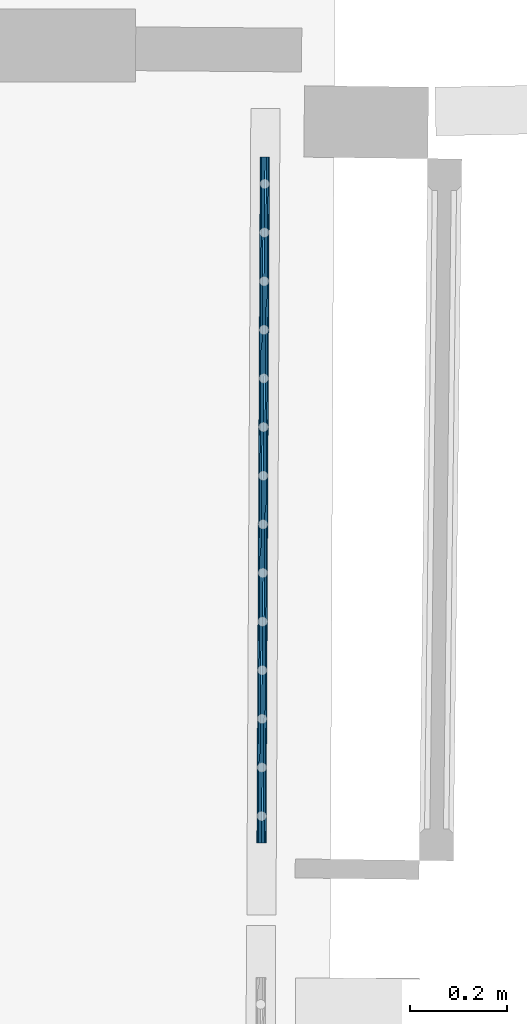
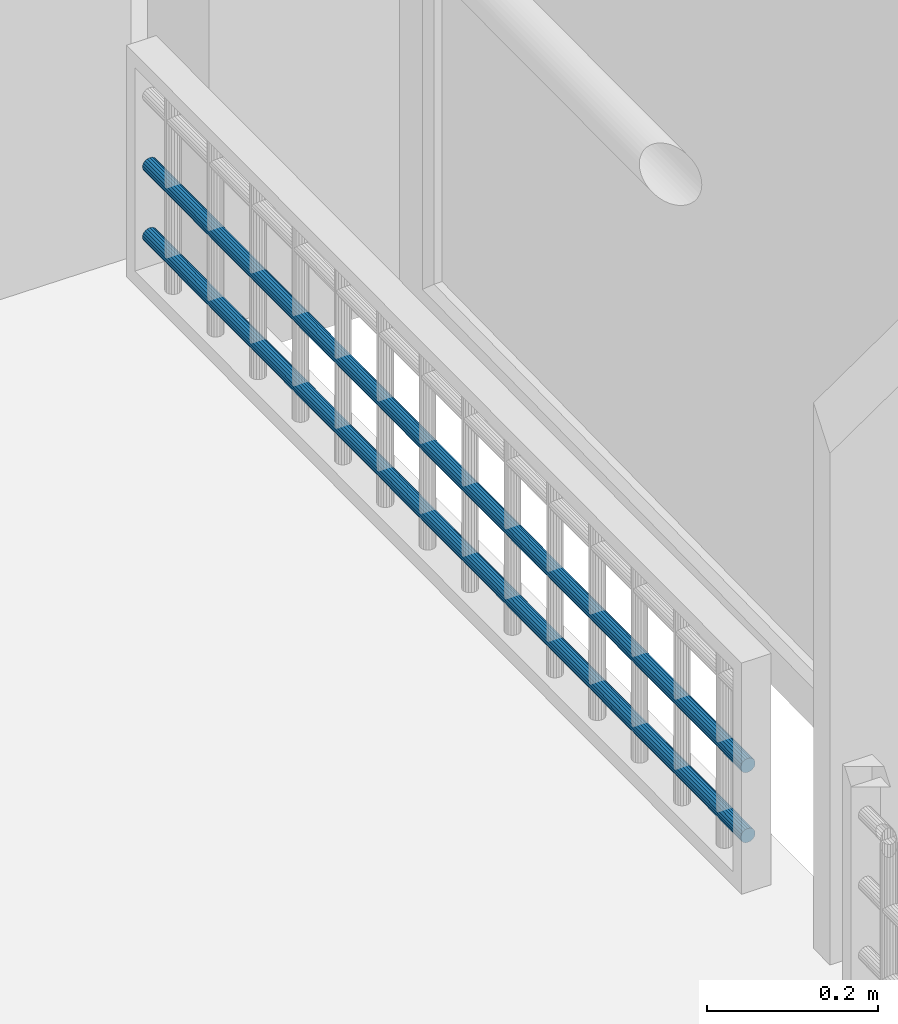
# One storey, part 21 of 66: 2 members, 1 element without a shape of its own.
"""IFC2X3 building model written with IfcOpenShell, lengths in centimetres."""

from ifc_helpers import new_model, entity, si_unit, converted_unit, direction, frame, origin, origin_with_axes, place, context, subcontext, project, spatial, faceted_brep, material, type_object, element, aggregate, save


model = new_model("IFC2X3")

# Units and contexts
model_context = context("Model", 3, precision=0.0001, world=origin(), true_north=direction((0.225632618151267, 0.974212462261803, 0.0)))
body_context = subcontext(model_context, "Body", "Model", "MODEL_VIEW")
ifc_project = project(units=[si_unit("LENGTHUNIT", "METRE", prefix="CENTI"), si_unit("AREAUNIT", "SQUARE_METRE", prefix="CENTI"), si_unit("VOLUMEUNIT", "CUBIC_METRE", prefix="CENTI"), converted_unit("PLANEANGLEUNIT", "DEGREE", entity("IfcRatioMeasure", 0.0174532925), si_unit("PLANEANGLEUNIT", "RADIAN"), dimensions=[0, 0, 0, 0, 0, 0, 0])], contexts=[model_context])

# Site, building, storey
site_placement = place(None, origin_with_axes())
site = spatial("IfcSite", under=ifc_project, at=site_placement, Name="Default Site", CompositionType="ELEMENT")
building_placement = place(site_placement, origin_with_axes())
building = spatial("IfcBuilding", under=site, at=building_placement, Name="Default Building", CompositionType="ELEMENT")
storey_placement = place(building_placement, frame((0.0, 0.0, 477.795358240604), z_axis=(0.0, 0.0, 1.0), x_axis=(1.0, 0.0, 0.0)))
storey = spatial("IfcBuildingStorey", under=building, at=storey_placement, Name="Niveau 1", CompositionType="ELEMENT", Elevation=477.795358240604)

# Assembly, members
building_element_proxy_type = type_object("IfcBuildingElementProxyType", Name="Type Object", PredefinedType="NOTDEFINED")
assembly_placement = place(storey_placement, frame((1065.11691205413, 138.297750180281, 9.99999999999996), z_axis=(0.0, 0.0, 1.0), x_axis=(-0.00486371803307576, -0.999988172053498, 0.0)))
assembly = element("IfcElementAssembly", 1, at=assembly_placement, inside=storey, type_object=building_element_proxy_type, Name="Panneau 1702029", ObjectType="Precast panel", PredefinedType="USERDEFINED")
ifc_material = material(Name="Aluminium satiné")
member_1_placement = place(assembly_placement, frame((142.999994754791, 0.342020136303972, 15.5603080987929), z_axis=(1.0, -4.41617228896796e-14, -2.54969656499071e-14), x_axis=(-5.09930639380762e-14, -0.866026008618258, -0.499998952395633)))
member_1 = element("IfcMember", 2, at=member_1_placement, material=ifc_material, Name="4294967059", context=body_context, shape_type="Brep", body=[
    faceted_brep([(-3.06699110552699e-13, 1.49880108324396e-13, 0.0), (-0.347296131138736, 1.58206781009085e-13, -1.77099950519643e-14), (-0.673647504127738, -0.118782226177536, -3.43519860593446e-14), (-0.939691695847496, -0.34202033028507, -4.79187221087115e-14), (-1.11333977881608, -0.642788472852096, -5.67738509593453e-14), (-1.17364672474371, -0.984808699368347, -5.98492875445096e-14), (-1.11333863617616, -1.32682824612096, -5.67740893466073e-14), (-0.939690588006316, -1.62759638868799, -4.79192231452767e-14), (-0.673645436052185, -1.85083308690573, -3.43526317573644e-14), (-0.347293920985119, -1.96961580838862, -1.7710736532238e-14), (2.95520980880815e-06, -1.96961451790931, -7.03486354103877e-19), (0.326354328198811, -1.85083229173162, 1.66412875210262e-14), (0.592398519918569, -1.62759418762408, 3.02080235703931e-14), (0.766046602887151, -1.32682604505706, 3.90631524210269e-14), (0.826353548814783, -0.984805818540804, 4.21385890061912e-14), (0.766045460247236, -0.64278627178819, 3.90633908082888e-14), (0.59239666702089, -0.342019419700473, 3.02084866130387e-14), (0.32635226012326, -0.118781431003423, 1.6641933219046e-14), (0.326352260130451, -0.118781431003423, -140.999994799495), (0.592396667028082, -0.342019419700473, -140.999994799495), (0.766045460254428, -0.64278627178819, -140.999994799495), (0.826353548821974, -0.984805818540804, -140.999994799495), (0.766046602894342, -1.32682604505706, -140.999994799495), (0.59239851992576, -1.62759418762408, -140.999994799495), (0.326354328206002, -1.85083229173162, -140.999994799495), (2.95521700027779e-06, -1.96961451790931, -140.999994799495), (-0.347293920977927, -1.96961580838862, -140.999994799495), (-0.673645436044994, -1.85083308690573, -140.999994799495), (-0.939690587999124, -1.62759638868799, -140.999994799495), (-1.11333863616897, -1.32682824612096, -140.999994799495), (-1.17364672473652, -0.984808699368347, -140.999994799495), (-1.11333977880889, -0.642788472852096, -140.999994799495), (-0.939691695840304, -0.34202033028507, -140.999994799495), (-0.673647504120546, -0.118782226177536, -140.999994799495), (-0.347296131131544, 1.58206781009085e-13, -140.999994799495), (6.88477053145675e-12, 1.49880108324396e-13, -140.999994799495), (0.32635226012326, -0.118781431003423, 2.22044604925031e-14), (0.592397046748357, -0.342018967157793, 4.4408940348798e-14), (0.592397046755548, -0.342018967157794, -140.999994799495), (0.326352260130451, -0.118781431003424, -140.999994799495), (0.59239666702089, -0.342019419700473, 4.44089209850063e-14), (0.766045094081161, -0.642786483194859, 4.44089023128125e-14), (0.766045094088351, -0.64278648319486, -140.999994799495), (0.592396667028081, -0.342019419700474, -140.999994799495), (0.766045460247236, -0.64278627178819, 4.44089209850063e-14), (0.826353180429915, -0.984805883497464, 6.66133626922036e-14), (0.826353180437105, -0.984805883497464, -140.999994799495), (0.766045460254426, -0.64278627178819, -140.999994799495), (0.826353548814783, -0.984805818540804, 6.66133814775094e-14), (0.766046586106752, -1.32682604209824, 4.4408920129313e-14), (0.766046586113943, -1.32682604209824, -140.999994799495), (0.826353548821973, -0.984805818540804, -140.999994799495), (0.766046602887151, -1.32682604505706, 4.44089209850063e-14), (0.592398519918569, -1.62759418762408, 4.44089209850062e-14), (0.592398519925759, -1.62759418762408, -140.999994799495), (0.766046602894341, -1.32682604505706, -140.999994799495), (0.592398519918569, -1.62759418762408, 4.44089209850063e-14), (0.326354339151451, -1.85083230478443, 2.22044610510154e-14), (0.326354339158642, -1.85083230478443, -140.999994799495), (0.326354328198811, -1.85083229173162, 2.22044604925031e-14), (3.08314897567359e-06, -1.96961486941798, 6.52400854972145e-21), (3.08315616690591e-06, -1.96961486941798, -140.999994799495), (2.95520980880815e-06, -1.96961451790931, 0.0), (-0.347293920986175, -1.96961494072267, 1.37204958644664e-25), (-0.347293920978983, -1.96961494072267, -140.999994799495), (-0.347293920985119, -1.96961580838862, 0.0), (-0.673645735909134, -1.85083391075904, -2.22044757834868e-14), (-0.673645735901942, -1.85083391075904, -140.999994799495), (-0.673645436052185, -1.85083308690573, -2.22044604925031e-14), (-0.939690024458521, -1.62759571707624, -4.44088922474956e-14), (-0.93969002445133, -1.62759571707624, -140.999994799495), (-0.939690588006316, -1.62759638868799, -4.44089209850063e-14), (-1.1133393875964, -1.32682867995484, -4.44089593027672e-14), (-1.11333938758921, -1.32682867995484, -140.999994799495), (-0.939690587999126, -1.62759638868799, -140.999994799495), (-1.11333863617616, -1.32682824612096, -4.44089209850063e-14), (-1.17364635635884, -0.984808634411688, -6.66133626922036e-14), (-1.17364635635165, -0.984808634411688, -140.999994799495), (-1.17364672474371, -0.984808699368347, -6.66133814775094e-14), (-1.11333976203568, -0.642788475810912, -4.4408920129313e-14), (-1.11333976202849, -0.642788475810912, -140.999994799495), (-1.17364672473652, -0.984808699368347, -140.999994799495), (-1.11333977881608, -0.642788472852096, -4.44089209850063e-14), (-0.939691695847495, -0.34202033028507, -4.44089209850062e-14), (-0.939691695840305, -0.34202033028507, -140.999994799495), (-1.11333977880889, -0.642788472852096, -140.999994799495), (-0.939691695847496, -0.34202033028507, -4.44089209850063e-14), (-0.673647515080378, -0.118782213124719, -2.22044610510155e-14), (-0.673647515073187, -0.118782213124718, -140.999994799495), (-0.939691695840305, -0.342020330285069, -140.999994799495), (-0.673647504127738, -0.118782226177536, -2.22044604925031e-14), (-0.347296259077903, 3.51508832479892e-07, -6.52400855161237e-21), (-0.347296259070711, 3.51508832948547e-07, -140.999994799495), (-0.673647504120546, -0.118782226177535, -140.999994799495), (-0.347296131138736, 1.58206781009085e-13, 0.0), (-8.21448214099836e-13, 4.22812609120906e-07, 6.68597932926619e-26), (6.37002142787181e-12, 4.22812609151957e-07, -140.999994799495), (-0.347296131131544, 1.58237832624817e-13, -140.999994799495), (0.326352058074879, -0.118781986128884, 2.22044501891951e-14), (0.32635205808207, -0.118781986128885, -140.999994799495), (6.88462091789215e-12, 1.49469046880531e-13, -140.999994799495)], [[[0, 1, 2, 3, 4, 5, 6, 7, 8, 9, 10, 11, 12, 13, 14, 15, 16, 17]], [[18, 19, 20, 21, 22, 23, 24, 25, 26, 27, 28, 29, 30, 31, 32, 33, 34, 35]], [[36, 37, 38, 39]], [[40, 41, 42, 43]], [[44, 45, 46, 47]], [[48, 49, 50, 51]], [[52, 53, 54, 55]], [[56, 57, 58, 23]], [[59, 60, 61, 24]], [[62, 63, 64, 25]], [[65, 66, 67, 26]], [[68, 69, 70, 27]], [[71, 72, 73, 74]], [[75, 76, 77, 29]], [[78, 79, 80, 81]], [[82, 83, 84, 85]], [[86, 87, 88, 89]], [[90, 91, 92, 93]], [[94, 95, 96, 97]], [[0, 98, 99, 100]]]),
])
member_2_placement = place(assembly_placement, frame((142.999994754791, 0.342020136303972, 5.56030720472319), z_axis=(1.0, -4.41625902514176e-14, -2.54969656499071e-14), x_axis=(-5.09930639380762e-14, -0.866025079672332, -0.500000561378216)))
member_2 = element("IfcMember", 3, at=member_2_placement, material=ifc_material, Name="4294967058", context=body_context, shape_type="Brep", body=[
    faceted_brep([(-1.61676227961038e-13, 8.74300631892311e-14, 2.22044604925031e-14), (-0.347296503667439, 9.36750677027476e-14, 4.49444644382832e-15), (-0.67364828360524, -0.118781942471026, -1.2147513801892e-14), (-0.939693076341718, -0.342019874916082, -2.57141836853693e-14), (-1.1133413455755, -0.642787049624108, -3.45691915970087e-14), (-1.17364892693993, -0.98480716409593, -3.76445122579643e-14), (-1.11334184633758, -1.32682746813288, -3.45692171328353e-14), (-0.939693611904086, -1.62759464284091, -2.57142109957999e-14), (-0.673649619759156, -1.85083312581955, -1.2147581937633e-14), (-0.347297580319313, -1.96961516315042, 4.49439154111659e-15), (-1.44918148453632e-06, -1.96961580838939, 2.22043865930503e-14), (0.326350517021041, -1.85083354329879, 3.88463563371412e-14), (0.592395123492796, -1.62759593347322, 5.2413016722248e-14), (0.766043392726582, -1.32682875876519, 6.12680246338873e-14), (0.826351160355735, -0.984808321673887, 6.43433547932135e-14), (0.766043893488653, -0.642788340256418, 6.1268050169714e-14), (0.592396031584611, -0.34202052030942, 5.24130630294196e-14), (0.326351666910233, -0.118782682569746, 3.88464149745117e-14), (0.326351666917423, -0.118782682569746, -140.999994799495), (0.592396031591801, -0.34202052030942, -140.999994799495), (0.766043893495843, -0.642788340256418, -140.999994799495), (0.826351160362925, -0.984808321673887, -140.999994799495), (0.766043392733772, -1.32682875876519, -140.999994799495), (0.592395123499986, -1.62759593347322, -140.999994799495), (0.326350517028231, -1.85083354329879, -140.999994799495), (-1.44917429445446e-06, -1.96961580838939, -140.999994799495), (-0.347297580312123, -1.96961516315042, -140.999994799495), (-0.673649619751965, -1.85083312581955, -140.999994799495), (-0.939693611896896, -1.62759464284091, -140.999994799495), (-1.11334184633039, -1.32682746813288, -140.999994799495), (-1.17364892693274, -0.98480716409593, -140.999994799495), (-1.11334134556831, -0.642787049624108, -140.999994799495), (-0.939693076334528, -0.342019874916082, -140.999994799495), (-0.67364828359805, -0.118781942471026, -140.999994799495), (-0.347296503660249, 9.36750677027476e-14, -140.999994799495), (7.02840563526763e-12, 8.74300631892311e-14, -140.999994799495), (0.326351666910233, -0.118782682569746, 4.44089209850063e-14), (0.592395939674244, -0.342020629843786, 6.66133767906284e-14), (0.592395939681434, -0.342020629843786, -140.999994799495), (0.592396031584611, -0.34202052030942, 6.66133814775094e-14), (0.766044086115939, -0.642788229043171, 4.44089308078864e-14), (0.766044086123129, -0.642788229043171, -140.999994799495), (0.766043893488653, -0.642788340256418, 4.44089209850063e-14), (0.826351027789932, -0.984808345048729, 6.6613374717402e-14), (0.826351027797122, -0.984808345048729, -140.999994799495), (0.826351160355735, -0.984808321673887, 6.66133814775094e-14), (0.766043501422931, -1.32682877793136, 6.66133870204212e-14), (0.766043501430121, -1.32682877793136, -140.999994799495), (0.766043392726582, -1.32682875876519, 6.66133814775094e-14), (0.592395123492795, -1.62759593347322, 4.44089209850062e-14), (0.592395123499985, -1.62759593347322, -140.999994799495), (0.592395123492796, -1.62759593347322, 4.44089209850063e-14), (0.326350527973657, -1.85083355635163, 4.44089215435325e-14), (0.326350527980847, -1.85083355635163, -140.999994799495), (0.326350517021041, -1.85083354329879, 4.44089209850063e-14), (-1.48504093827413e-06, -1.96961570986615, 2.22044586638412e-14), (-1.48503374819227e-06, -1.96961570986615, -140.999994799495), (-1.44918148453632e-06, -1.96961580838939, 2.22044604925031e-14), (-0.347297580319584, -1.96961558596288, 1.16505883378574e-25), (-0.347297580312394, -1.96961558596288, -140.999994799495), (-0.347297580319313, -1.96961516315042, 0.0), (-0.673649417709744, -1.85083257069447, -2.22044501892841e-14), (-0.673649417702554, -1.85083257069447, -140.999994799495), (-0.673649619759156, -1.85083312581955, -2.22044604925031e-14), (-0.939693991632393, -1.62759509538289, -4.44089403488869e-14), (-0.939693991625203, -1.62759509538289, -140.999994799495), (-0.939693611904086, -1.62759464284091, -4.44089209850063e-14), (-1.11334148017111, -1.32682725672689, -2.22044418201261e-14), (-1.11334148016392, -1.32682725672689, -140.999994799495), (-1.11334184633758, -1.32682746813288, -2.22044604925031e-14), (-1.17364903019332, -0.984807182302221, -4.44089262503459e-14), (-1.17364903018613, -0.984807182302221, -140.999994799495), (-1.17364892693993, -0.98480716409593, -4.44089209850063e-14), (-1.11334132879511, -0.642787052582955, -4.44089201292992e-14), (-1.11334132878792, -0.642787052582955, -140.999994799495), (-1.1133413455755, -0.642787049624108, -4.44089209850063e-14), (-0.939693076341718, -0.342019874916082, -2.22044604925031e-14), (-0.673648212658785, -0.118782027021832, -2.22044568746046e-14), (-0.673648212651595, -0.118782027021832, -140.999994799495), (-0.67364828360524, -0.118781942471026, -2.22044604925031e-14), (-0.347296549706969, 1.26492927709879e-07, -2.34779757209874e-21), (-0.347296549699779, 1.26492927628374e-07, -140.999994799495), (-0.347296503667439, 9.36750677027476e-14, 0.0), (-3.04129891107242e-13, -2.22426659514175e-07, 2.22044604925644e-14), (6.8859519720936e-12, -2.22426659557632e-07, -140.999994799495), (-0.347296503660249, 9.3631610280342e-14, -140.999994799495), (0.326351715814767, -0.118782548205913, 4.44089234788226e-14), (0.326351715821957, -0.118782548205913, -140.999994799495), (7.02840680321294e-12, 8.74332720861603e-14, -140.999994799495)], [[[0, 1, 2, 3, 4, 5, 6, 7, 8, 9, 10, 11, 12, 13, 14, 15, 16, 17]], [[18, 19, 20, 21, 22, 23, 24, 25, 26, 27, 28, 29, 30, 31, 32, 33, 34, 35]], [[36, 37, 38, 18]], [[39, 40, 41, 19]], [[42, 43, 44, 20]], [[45, 46, 47, 21]], [[48, 49, 50, 22]], [[51, 52, 53, 23]], [[54, 55, 56, 24]], [[57, 58, 59, 25]], [[60, 61, 62, 26]], [[63, 64, 65, 27]], [[66, 67, 68, 28]], [[69, 70, 71, 29]], [[72, 73, 74, 30]], [[75, 76, 32, 31]], [[76, 77, 78, 32]], [[79, 80, 81, 33]], [[82, 83, 84, 85]], [[0, 86, 87, 88]]]),
])
aggregate(assembly, [member_1, member_2])

save(model, "model.ifc")
